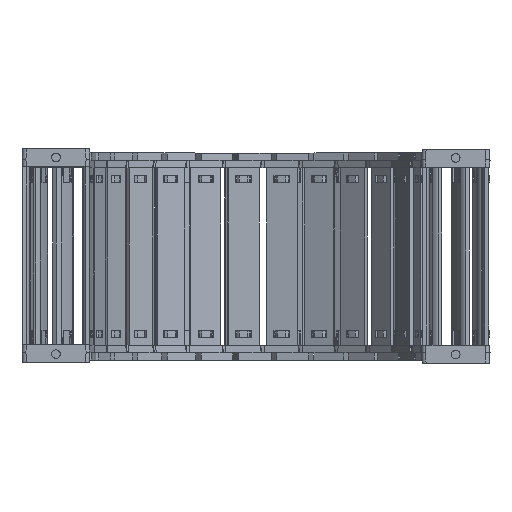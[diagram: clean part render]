
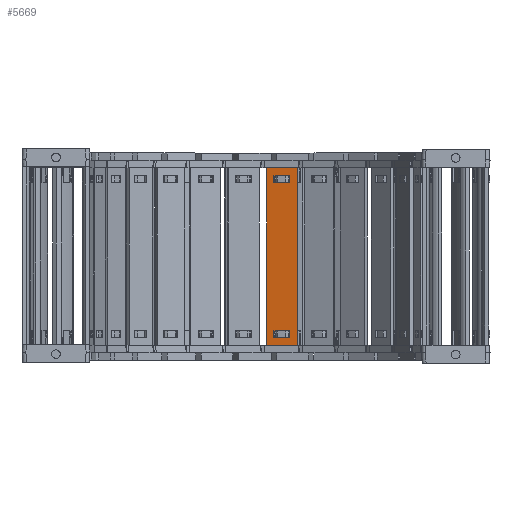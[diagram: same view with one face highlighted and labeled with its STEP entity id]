
A CAD part, top view. The second image highlights one B-rep face of the part: STEP entity #5669.
In plain terms, the highlighted planar face has unit normal (-0.182, 0, 0.983) as drawn and (0, 1, 0) by its records, which use the part's own axes.
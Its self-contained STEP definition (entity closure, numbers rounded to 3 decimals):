
#5089=DIRECTION('',(0.,0.,1.));
#5090=VECTOR('',#5089,15.8);
#5091=CARTESIAN_POINT('',(75.74,1.5,-7.9));
#5092=LINE('',#5091,#5090);
#5093=DIRECTION('',(-1.,0.,0.));
#5094=VECTOR('',#5093,90.5);
#5095=CARTESIAN_POINT('',(75.74,1.5,7.9));
#5096=LINE('',#5095,#5094);
#5097=DIRECTION('',(0.,0.,-1.));
#5098=VECTOR('',#5097,15.8);
#5099=CARTESIAN_POINT('',(-14.76,1.5,7.9));
#5100=LINE('',#5099,#5098);
#5101=DIRECTION('',(1.,0.,0.));
#5102=VECTOR('',#5101,3.648);
#5103=CARTESIAN_POINT('',(68.122,1.5,4.075));
#5104=LINE('',#5103,#5102);
#5105=DIRECTION('',(0.,0.,-1.));
#5106=VECTOR('',#5105,8.15);
#5107=CARTESIAN_POINT('',(71.77,1.5,4.075));
#5108=LINE('',#5107,#5106);
#5109=DIRECTION('',(-1.,0.,0.));
#5110=VECTOR('',#5109,3.648);
#5111=CARTESIAN_POINT('',(71.77,1.5,-4.075));
#5112=LINE('',#5111,#5110);
#5113=DIRECTION('',(0.,0.,-1.));
#5114=VECTOR('',#5113,8.15);
#5115=CARTESIAN_POINT('',(-7.142,1.5,4.075));
#5116=LINE('',#5115,#5114);
#5117=DIRECTION('',(-1.,0.,0.));
#5118=VECTOR('',#5117,3.648);
#5119=CARTESIAN_POINT('',(-7.142,1.5,-4.075));
#5120=LINE('',#5119,#5118);
#5121=DIRECTION('',(0.,0.,1.));
#5122=VECTOR('',#5121,8.15);
#5123=CARTESIAN_POINT('',(-10.79,1.5,-4.075));
#5124=LINE('',#5123,#5122);
#5125=DIRECTION('',(1.,0.,0.));
#5126=VECTOR('',#5125,3.648);
#5127=CARTESIAN_POINT('',(-10.79,1.5,4.075));
#5128=LINE('',#5127,#5126);
#5133=DIRECTION('',(-1.,0.,0.));
#5134=VECTOR('',#5133,90.5);
#5135=CARTESIAN_POINT('',(75.74,1.5,-7.9));
#5136=LINE('',#5135,#5134);
#5254=DIRECTION('',(0.,0.,-1.));
#5255=VECTOR('',#5254,8.15);
#5256=CARTESIAN_POINT('',(68.122,1.5,4.075));
#5257=LINE('',#5256,#5255);
#5439=CARTESIAN_POINT('',(71.77,1.5,4.075));
#5440=VERTEX_POINT('',#5439);
#5441=CARTESIAN_POINT('',(68.122,1.5,4.075));
#5442=VERTEX_POINT('',#5441);
#5483=CARTESIAN_POINT('',(68.122,1.5,-4.075));
#5484=VERTEX_POINT('',#5483);
#5485=CARTESIAN_POINT('',(71.77,1.5,-4.075));
#5486=VERTEX_POINT('',#5485);
#5487=CARTESIAN_POINT('',(75.74,1.5,7.9));
#5489=VERTEX_POINT('',#5487);
#5491=CARTESIAN_POINT('',(75.74,1.5,-7.9));
#5492=VERTEX_POINT('',#5491);
#5515=CARTESIAN_POINT('',(-7.142,1.5,4.075));
#5516=CARTESIAN_POINT('',(-7.142,1.5,-4.075));
#5517=VERTEX_POINT('',#5515);
#5518=VERTEX_POINT('',#5516);
#5519=CARTESIAN_POINT('',(-10.79,1.5,-4.075));
#5520=VERTEX_POINT('',#5519);
#5521=CARTESIAN_POINT('',(-10.79,1.5,4.075));
#5522=VERTEX_POINT('',#5521);
#5523=CARTESIAN_POINT('',(-14.76,1.5,7.9));
#5524=VERTEX_POINT('',#5523);
#5527=CARTESIAN_POINT('',(-14.76,1.5,-7.9));
#5528=VERTEX_POINT('',#5527);
#5638=CARTESIAN_POINT('',(107.48,1.5,10.061));
#5639=DIRECTION('',(0.,-1.,0.));
#5640=DIRECTION('',(0.,0.,-1.));
#5641=AXIS2_PLACEMENT_3D('',#5638,#5639,#5640);
#5642=PLANE('',#5641);
#5643=ORIENTED_EDGE('',*,*,#5577,.T.);
#5644=ORIENTED_EDGE('',*,*,#5603,.T.);
#5645=ORIENTED_EDGE('',*,*,#5616,.T.);
#5647=ORIENTED_EDGE('',*,*,#5646,.F.);
#5648=EDGE_LOOP('',(#5643,#5644,#5645,#5647));
#5649=FACE_OUTER_BOUND('',#5648,.F.);
#5651=ORIENTED_EDGE('',*,*,#5650,.F.);
#5652=ORIENTED_EDGE('',*,*,#5540,.T.);
#5654=ORIENTED_EDGE('',*,*,#5653,.T.);
#5656=ORIENTED_EDGE('',*,*,#5655,.T.);
#5657=EDGE_LOOP('',(#5651,#5652,#5654,#5656));
#5658=FACE_BOUND('',#5657,.F.);
#5660=ORIENTED_EDGE('',*,*,#5659,.T.);
#5662=ORIENTED_EDGE('',*,*,#5661,.T.);
#5664=ORIENTED_EDGE('',*,*,#5663,.T.);
#5666=ORIENTED_EDGE('',*,*,#5665,.T.);
#5667=EDGE_LOOP('',(#5660,#5662,#5664,#5666));
#5668=FACE_BOUND('',#5667,.F.);
#5669=ADVANCED_FACE('',(#5649,#5658,#5668),#5642,.F.);
#5540=EDGE_CURVE('',#5442,#5440,#5104,.T.);
#5577=EDGE_CURVE('',#5492,#5489,#5092,.T.);
#5603=EDGE_CURVE('',#5489,#5524,#5096,.T.);
#5616=EDGE_CURVE('',#5524,#5528,#5100,.T.);
#5646=EDGE_CURVE('',#5492,#5528,#5136,.T.);
#5650=EDGE_CURVE('',#5442,#5484,#5257,.T.);
#5653=EDGE_CURVE('',#5440,#5486,#5108,.T.);
#5655=EDGE_CURVE('',#5486,#5484,#5112,.T.);
#5659=EDGE_CURVE('',#5517,#5518,#5116,.T.);
#5661=EDGE_CURVE('',#5518,#5520,#5120,.T.);
#5663=EDGE_CURVE('',#5520,#5522,#5124,.T.);
#5665=EDGE_CURVE('',#5522,#5517,#5128,.T.);
